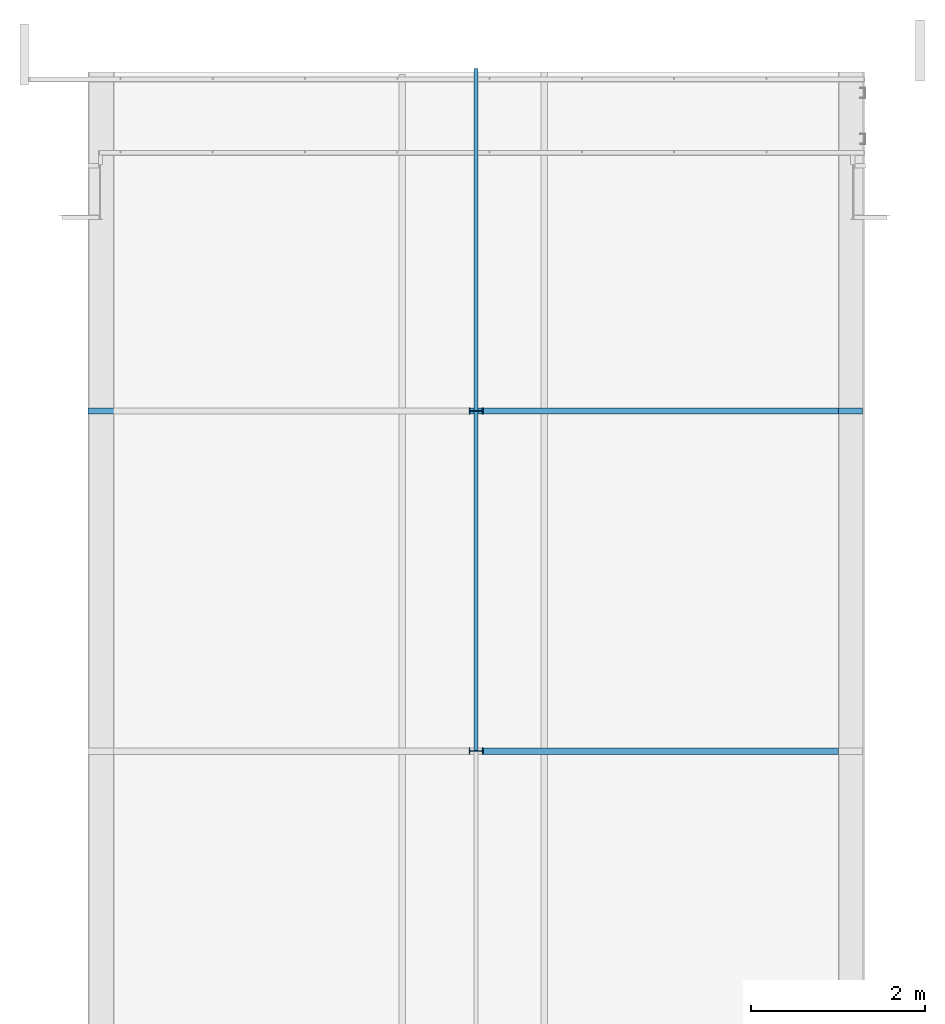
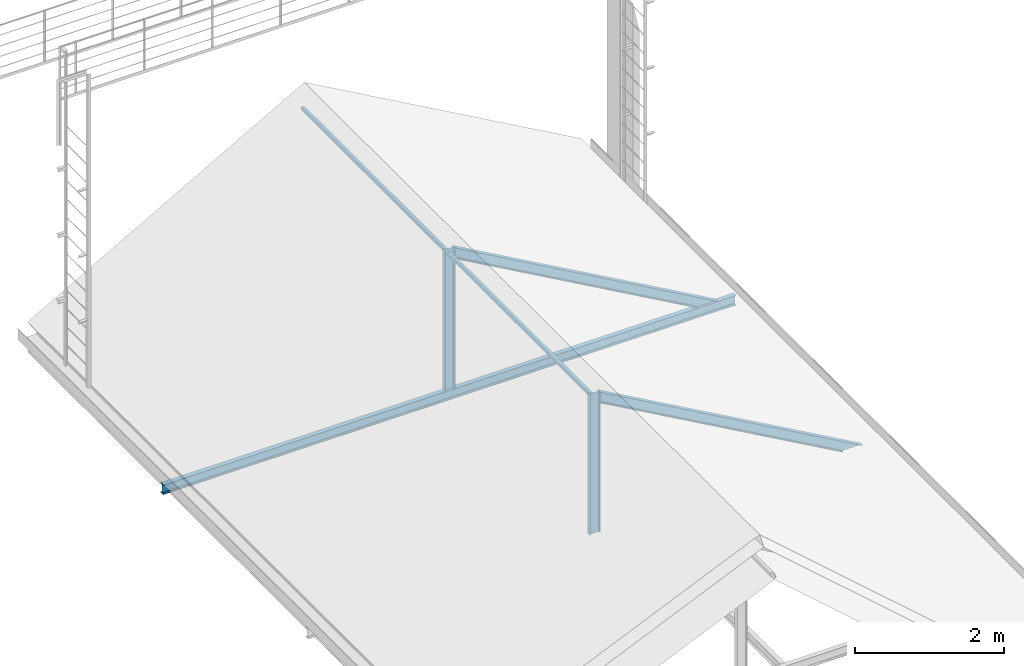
# One storey, part 5 of 10: 5 beams, 2 members, 2 elements without a shape of their own.
"""IFC2X3 building model written with IfcOpenShell, lengths in metres."""

from ifc_helpers import new_model, entity, si_unit, converted_unit, derived_unit, direction, frame, frame_2d, origin, place, context, subcontext, project, spatial, polyline, circle_curve, parameter, trimmed, segment, composite_curve, rectangle, outline, extrude, clip, halfspace, source, transform, mapped, material, type_object, type_shapes, element, aggregate, save


model = new_model("IFC2X3")

# Units and contexts
model_context = context("Model", 3, precision=1e-05, world=origin(), true_north=direction((6.12303176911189e-17, 1.0)))
body_context = subcontext(model_context, "Body", "Model", "MODEL_VIEW")
ifc_project = project(units=[si_unit("LENGTHUNIT", "METRE"), si_unit("AREAUNIT", "SQUARE_METRE"), si_unit("VOLUMEUNIT", "CUBIC_METRE"), converted_unit("PLANEANGLEUNIT", "DEGREE", entity("IfcRatioMeasure", 0.0174532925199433), si_unit("PLANEANGLEUNIT", "RADIAN"), dimensions=[0, 0, 0, 0, 0, 0, 0]), si_unit("MASSUNIT", "GRAM", prefix="KILO"), derived_unit("MASSDENSITYUNIT", [(si_unit("MASSUNIT", "GRAM", prefix="KILO"), 1), (si_unit("LENGTHUNIT", "METRE"), -3)]), derived_unit("MOMENTOFINERTIAUNIT", [(si_unit("LENGTHUNIT", "METRE"), 4)]), si_unit("TIMEUNIT", "SECOND"), si_unit("FREQUENCYUNIT", "HERTZ"), si_unit("THERMODYNAMICTEMPERATUREUNIT", "DEGREE_CELSIUS"), derived_unit("THERMALTRANSMITTANCEUNIT", [(si_unit("MASSUNIT", "GRAM", prefix="KILO"), 1), (si_unit("THERMODYNAMICTEMPERATUREUNIT", "KELVIN"), -1), (si_unit("TIMEUNIT", "SECOND"), -3)]), derived_unit("VOLUMETRICFLOWRATEUNIT", [(si_unit("LENGTHUNIT", "METRE"), 3), (si_unit("TIMEUNIT", "SECOND"), -1)]), si_unit("ELECTRICCURRENTUNIT", "AMPERE"), si_unit("ELECTRICVOLTAGEUNIT", "VOLT"), si_unit("POWERUNIT", "WATT"), si_unit("FORCEUNIT", "NEWTON", prefix="KILO"), si_unit("ILLUMINANCEUNIT", "LUX"), si_unit("LUMINOUSFLUXUNIT", "LUMEN"), si_unit("LUMINOUSINTENSITYUNIT", "CANDELA"), derived_unit("USERDEFINED", [(si_unit("MASSUNIT", "GRAM", prefix="KILO"), -1), (si_unit("LENGTHUNIT", "METRE"), -2), (si_unit("TIMEUNIT", "SECOND"), 3), (si_unit("LUMINOUSFLUXUNIT", "LUMEN"), 1)]), derived_unit("LINEARVELOCITYUNIT", [(si_unit("LENGTHUNIT", "METRE"), 1), (si_unit("TIMEUNIT", "SECOND"), -1)]), si_unit("PRESSUREUNIT", "PASCAL"), derived_unit("USERDEFINED", [(si_unit("LENGTHUNIT", "METRE"), -2), (si_unit("MASSUNIT", "GRAM", prefix="KILO"), 1), (si_unit("TIMEUNIT", "SECOND"), -2)]), derived_unit("LINEARFORCEUNIT", [(si_unit("MASSUNIT", "GRAM", prefix="KILO"), 1), (si_unit("LENGTHUNIT", "METRE"), 1), (si_unit("TIMEUNIT", "SECOND"), -2), (si_unit("LENGTHUNIT", "METRE"), -1)]), derived_unit("PLANARFORCEUNIT", [(si_unit("MASSUNIT", "GRAM", prefix="KILO"), 1), (si_unit("LENGTHUNIT", "METRE"), 1), (si_unit("TIMEUNIT", "SECOND"), -2), (si_unit("LENGTHUNIT", "METRE"), -2)])], contexts=[model_context])

# Site, building, storey
site_placement = place(None, origin())
site = spatial("IfcSite", under=ifc_project, at=site_placement, Name="Superficie", CompositionType="ELEMENT")
building_placement = place(site_placement, origin())
building = spatial("IfcBuilding", under=site, at=building_placement, Name="Telegestiones", CompositionType="ELEMENT")
storey_placement = place(building_placement, frame((0.0, 0.0, 13.23)))
storey = spatial("IfcBuildingStorey", under=building, at=storey_placement, Name="Nivel 3_SUP", CompositionType="ELEMENT", Elevation=13.23)

# Assembly, beam
assembly_1_placement = place(storey_placement, origin())
assembly_1 = element("IfcElementAssembly", 1, at=assembly_1_placement, inside=storey, Name="EST-CER-Hi:Estándar", ObjectType="EST-CER-Hi:Estándar", AssemblyPlace="NOTDEFINED", PredefinedType="TRUSS")
ifc_material_1 = material(Name="Metal - Acero - 345 MPa")
beam_type_1 = type_object("IfcBeamType", Name="IPN - Secciones en I con alas cónicas:IPN 160", PredefinedType="NOTDEFINED")
beam_1_placement = place(assembly_1_placement, frame((10.4934837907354, 5.94460722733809, 2.42000000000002), z_axis=(0.491850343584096, 0.0, 0.870679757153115), x_axis=(0.870679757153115, 0.0, -0.491850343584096)))
beam_1 = element("IfcBeam", 2, at=beam_1_placement, type_object=beam_type_1, material=ifc_material_1, Name="IPN - Secciones en I con alas cónicas:IPN 160", ObjectType="IPN - Secciones en I con alas cónicas:IPN 160", context=body_context, shape_type="SweptSolid", body=[
    clip(clip(extrude(outline(composite_curve([segment(polyline([(0.0763950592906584, -0.0370000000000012), (0.0800000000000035, -0.0370000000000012)]), True, "CONTINUOUS"), segment(polyline([(0.0800000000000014, -0.0370000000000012), (0.0800000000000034, 0.0369999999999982)]), True, "CONTINUOUS"), segment(polyline([(0.0800000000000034, 0.0369999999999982), (0.0763950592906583, 0.0369999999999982)]), True, "CONTINUOUS"), segment(trimmed(circle_curve(frame_2d((0.0763950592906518, 0.0332000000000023), x_axis=(0.0, 1.0)), 0.00379999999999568), [parameter(0.0)], [parameter(82.0303896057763)], True, "PARAMETER"), True, "CONTINUOUS"), segment(polyline([(0.0726317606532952, 0.033726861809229), (0.0691107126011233, 0.0085765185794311)]), True, "CONTINUOUS"), segment(trimmed(circle_curve(frame_2d((0.0628715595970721, 0.00944999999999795), x_axis=(0.990341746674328, -0.138647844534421)), 0.00629999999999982), [parameter(277.969610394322)], [parameter(0.0)], True, "PARAMETER"), False, "CONTINUOUS"), segment(polyline([(0.0628715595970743, 0.0031499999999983), (-0.0628715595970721, 0.0031499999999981)]), True, "CONTINUOUS"), segment(trimmed(circle_curve(frame_2d((-0.0628715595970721, 0.00944999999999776), x_axis=(0.0, -1.0)), 0.00629999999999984), [parameter(277.969610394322)], [parameter(0.0)], True, "PARAMETER"), False, "CONTINUOUS"), segment(polyline([(-0.069110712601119, 0.00857651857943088), (-0.072631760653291, 0.0337268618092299)]), True, "CONTINUOUS"), segment(trimmed(circle_curve(frame_2d((-0.0763950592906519, 0.0331999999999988), x_axis=(0.990341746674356, 0.138647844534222)), 0.00379999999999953), [parameter(0.0)], [parameter(82.0303896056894)], True, "PARAMETER"), True, "CONTINUOUS"), segment(polyline([(-0.0763950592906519, 0.036999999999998), (-0.0800000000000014, 0.036999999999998)]), True, "CONTINUOUS"), segment(polyline([(-0.0800000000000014, 0.036999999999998), (-0.0800000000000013, -0.0370000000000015)]), True, "CONTINUOUS"), segment(polyline([(-0.0800000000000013, -0.0370000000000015), (-0.0763950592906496, -0.0370000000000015)]), True, "CONTINUOUS"), segment(trimmed(circle_curve(frame_2d((-0.0763950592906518, -0.0332000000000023), x_axis=(0.0, -1.0)), 0.00379999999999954), [parameter(0.0)], [parameter(82.0303896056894)], True, "PARAMETER"), True, "CONTINUOUS"), segment(polyline([(-0.0726317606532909, -0.0337268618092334), (-0.0691107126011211, -0.00857651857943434)]), True, "CONTINUOUS"), segment(trimmed(circle_curve(frame_2d((-0.0628715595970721, -0.0094500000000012), x_axis=(-0.990341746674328, 0.138647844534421)), 0.00629999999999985), [parameter(277.969610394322)], [parameter(0.0)], True, "PARAMETER"), False, "CONTINUOUS"), segment(polyline([(-0.0628715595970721, -0.00315000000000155), (0.0628715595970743, -0.00315000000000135)]), True, "CONTINUOUS"), segment(trimmed(circle_curve(frame_2d((0.0628715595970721, -0.009450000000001), x_axis=(0.0, 1.0)), 0.0062999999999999), [parameter(277.969610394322)], [parameter(0.0)], True, "PARAMETER"), False, "CONTINUOUS"), segment(polyline([(0.0691107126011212, -0.00857651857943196), (0.0726317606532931, -0.0337268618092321)]), True, "CONTINUOUS"), segment(trimmed(circle_curve(frame_2d((0.0763950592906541, -0.0332000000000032), x_axis=(-0.99034174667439, -0.138647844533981)), 0.00379999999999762), [parameter(0.0)], [parameter(82.0303896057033)], True, "PARAMETER"), True, "CONTINUOUS")], self_intersect=False)), frame((0.0466899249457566, 0.0, 0.0), z_axis=(1.0, 0.0, 0.0), x_axis=(0.0, 0.0, -1.0)), (0.0, 0.0, 1.0), 4.68982070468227), halfspace(frame((-2.77164994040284, -0.0370000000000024, -4.16138878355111), z_axis=(0.491850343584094, 0.0, -0.870679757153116), x_axis=(0.870679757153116, 0.0, 0.491850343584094)), False)), halfspace(frame((1.1812361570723, 0.0370000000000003, -1.92838822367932), z_axis=(-0.870679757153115, 0.0, -0.491850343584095), x_axis=(-0.491850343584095, 0.0, 0.870679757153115)), False)),
])

# Assembly, beams
assembly_2_placement = place(storey_placement, origin())
assembly_2 = element("IfcElementAssembly", 3, at=assembly_2_placement, inside=storey, Name="EST-CER-Hi:Estándar", ObjectType="EST-CER-Hi:Estándar", AssemblyPlace="NOTDEFINED", PredefinedType="TRUSS")
beam_2_placement = place(assembly_2_placement, frame((6.03348379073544, 9.85160722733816, 0.070000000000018)))
beam_2 = element("IfcBeam", 4, at=beam_2_placement, type_object=beam_type_1, material=ifc_material_1, Name="IPN - Secciones en I con alas cónicas:IPN 160", ObjectType="IPN - Secciones en I con alas cónicas:IPN 160", context=body_context, shape_type="SweptSolid", body=[
    extrude(outline(composite_curve([segment(polyline([(0.0763950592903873, -0.0370000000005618), (0.0799999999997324, -0.0370000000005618)]), True, "CONTINUOUS"), segment(polyline([(0.0799999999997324, -0.0370000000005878), (0.0800000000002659, 0.0369999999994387)]), True, "CONTINUOUS"), segment(polyline([(0.0800000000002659, 0.0369999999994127), (0.0763950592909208, 0.0369999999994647)]), True, "CONTINUOUS"), segment(trimmed(circle_curve(frame_2d((0.0763950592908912, 0.0331999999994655), x_axis=(0.0, 1.0)), 0.00379999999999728), [parameter(0.0)], [parameter(82.0303896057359)], True, "PARAMETER"), True, "CONTINUOUS"), segment(polyline([(0.0726317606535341, 0.0337268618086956), (0.0691107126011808, 0.00857651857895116)]), True, "CONTINUOUS"), segment(trimmed(circle_curve(frame_2d((0.0628715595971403, 0.00944999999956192), x_axis=(0.990341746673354, -0.138647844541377)), 0.00630000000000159), [parameter(277.969610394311)], [parameter(0.0)], True, "PARAMETER"), False, "CONTINUOUS"), segment(polyline([(0.0628715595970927, 0.0031499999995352), (-0.0628715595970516, 0.0031500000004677)]), True, "CONTINUOUS"), segment(trimmed(circle_curve(frame_2d((-0.0628715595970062, 0.00945000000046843), x_axis=(0.0, -1.0)), 0.00630000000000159), [parameter(277.969610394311)], [parameter(0.0)], True, "PARAMETER"), False, "CONTINUOUS"), segment(polyline([(-0.0691107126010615, 0.00857651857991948), (-0.07263176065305, 0.0337268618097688)]), True, "CONTINUOUS"), segment(trimmed(circle_curve(frame_2d((-0.0763950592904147, 0.033200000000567), x_axis=(0.990341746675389, 0.138647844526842)), 0.00379999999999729), [parameter(0.0)], [parameter(82.0303896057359)], True, "PARAMETER"), True, "CONTINUOUS"), segment(polyline([(-0.0763950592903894, 0.0370000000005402), (-0.0799999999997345, 0.0370000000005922)]), True, "CONTINUOUS"), segment(polyline([(-0.0799999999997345, 0.037000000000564), (-0.080000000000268, -0.0369999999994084)]), True, "CONTINUOUS"), segment(polyline([(-0.080000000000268, -0.0369999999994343), (-0.0763950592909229, -0.0369999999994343)]), True, "CONTINUOUS"), segment(trimmed(circle_curve(frame_2d((-0.0763950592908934, -0.0331999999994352), x_axis=(0.0, -1.0)), 0.00379999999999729), [parameter(0.0)], [parameter(82.0303896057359)], True, "PARAMETER"), True, "CONTINUOUS"), segment(polyline([(-0.0726317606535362, -0.0337268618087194), (-0.069110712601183, -0.00857651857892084)]), True, "CONTINUOUS"), segment(trimmed(circle_curve(frame_2d((-0.0628715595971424, -0.0094499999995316), x_axis=(-0.990341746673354, 0.138647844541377)), 0.00630000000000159), [parameter(277.969610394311)], [parameter(0.0)], True, "PARAMETER"), False, "CONTINUOUS"), segment(polyline([(-0.062871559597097, -0.00314999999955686), (0.0628715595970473, -0.00315000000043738)]), True, "CONTINUOUS"), segment(trimmed(circle_curve(frame_2d((0.0628715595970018, -0.00945000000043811), x_axis=(0.0, 1.0)), 0.00630000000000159), [parameter(277.969610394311)], [parameter(0.0)], True, "PARAMETER"), False, "CONTINUOUS"), segment(polyline([(0.0691107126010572, -0.0085765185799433), (0.0726317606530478, -0.0337268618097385)]), True, "CONTINUOUS"), segment(trimmed(circle_curve(frame_2d((0.0763950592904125, -0.0332000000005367), x_axis=(-0.990341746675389, -0.138647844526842)), 0.00379999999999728), [parameter(0.0)], [parameter(82.0303896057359)], True, "PARAMETER"), True, "CONTINUOUS")], self_intersect=False)), frame((0.0, 0.0, 0.00999999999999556), z_axis=(1.0, 0.0, 0.0), x_axis=(0.0, 0.0, -1.0)), (0.0, 0.0, 1.0), 8.89907373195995),
])
beam_3_placement = place(assembly_2_placement, frame((10.4934837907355, 9.85160722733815, 2.42000000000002), z_axis=(0.491850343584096, 0.0, 0.870679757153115), x_axis=(0.870679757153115, 0.0, -0.491850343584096)))
beam_3 = element("IfcBeam", 5, at=beam_3_placement, type_object=beam_type_1, material=ifc_material_1, Name="IPN - Secciones en I con alas cónicas:IPN 160", ObjectType="IPN - Secciones en I con alas cónicas:IPN 160", context=body_context, shape_type="SweptSolid", body=[
    clip(clip(extrude(outline(composite_curve([segment(polyline([(-0.0799999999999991, -0.0370000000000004), (-0.0763950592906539, -0.0370000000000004)]), True, "CONTINUOUS"), segment(trimmed(circle_curve(frame_2d((-0.0763950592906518, -0.0332000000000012), x_axis=(0.0, -1.0)), 0.00379999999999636), [parameter(0.0)], [parameter(82.0303896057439)], True, "PARAMETER"), True, "CONTINUOUS"), segment(polyline([(-0.0726317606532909, -0.0337268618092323), (-0.0691107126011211, -0.00857651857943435)]), True, "CONTINUOUS"), segment(trimmed(circle_curve(frame_2d((-0.0628715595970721, -0.00945000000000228), x_axis=(-0.99034174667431, 0.138647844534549)), 0.00630000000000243), [parameter(277.969610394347)], [parameter(0.0)], True, "PARAMETER"), False, "CONTINUOUS"), segment(polyline([(-0.0628715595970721, -0.00314999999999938), (0.0628715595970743, -0.00314999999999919)]), True, "CONTINUOUS"), segment(trimmed(circle_curve(frame_2d((0.0628715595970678, -0.00945000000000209), x_axis=(0.0, 1.0)), 0.00630000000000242), [parameter(277.969610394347)], [parameter(0.0)], True, "PARAMETER"), False, "CONTINUOUS"), segment(polyline([(0.0691107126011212, -0.00857651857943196), (0.072631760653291, -0.0337268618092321)]), True, "CONTINUOUS"), segment(trimmed(circle_curve(frame_2d((0.0763950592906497, -0.0332000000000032), x_axis=(-0.990341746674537, -0.138647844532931)), 0.00379999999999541), [parameter(0.0)], [parameter(82.0303896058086)], True, "PARAMETER"), True, "CONTINUOUS"), segment(polyline([(0.0763950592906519, -0.0370000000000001), (0.0800000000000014, -0.0370000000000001)]), True, "CONTINUOUS"), segment(polyline([(0.0800000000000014, -0.036999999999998), (0.0800000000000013, 0.0370000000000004)]), True, "CONTINUOUS"), segment(polyline([(0.0800000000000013, 0.0370000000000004), (0.0763950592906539, 0.0370000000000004)]), True, "CONTINUOUS"), segment(trimmed(circle_curve(frame_2d((0.0763950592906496, 0.0332000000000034), x_axis=(0.0, 1.0)), 0.00379999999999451), [parameter(0.0)], [parameter(82.0303896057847)], True, "PARAMETER"), True, "CONTINUOUS"), segment(polyline([(0.0726317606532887, 0.0337268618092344), (0.0691107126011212, 0.00857651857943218)]), True, "CONTINUOUS"), segment(trimmed(circle_curve(frame_2d((0.0628715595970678, 0.00945000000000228), x_axis=(0.99034174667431, -0.138647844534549)), 0.00630000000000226), [parameter(277.969610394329)], [parameter(0.0)], True, "PARAMETER"), False, "CONTINUOUS"), segment(polyline([(0.06287155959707, 0.00314999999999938), (-0.0628715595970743, 0.00314999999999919)]), True, "CONTINUOUS"), segment(trimmed(circle_curve(frame_2d((-0.0628715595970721, 0.00945000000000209), x_axis=(0.0, -1.0)), 0.00630000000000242), [parameter(277.969610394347)], [parameter(0.0)], True, "PARAMETER"), False, "CONTINUOUS"), segment(polyline([(-0.0691107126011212, 0.00857651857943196), (-0.0726317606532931, 0.0337268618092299)]), True, "CONTINUOUS"), segment(trimmed(circle_curve(frame_2d((-0.0763950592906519, 0.033200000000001), x_axis=(0.99034174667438, 0.138647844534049)), 0.00379999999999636), [parameter(0.0)], [parameter(82.0303896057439)], True, "PARAMETER"), True, "CONTINUOUS"), segment(polyline([(-0.0763950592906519, 0.0370000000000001), (-0.0800000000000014, 0.0370000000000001)]), True, "CONTINUOUS"), segment(polyline([(-0.0799999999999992, 0.036999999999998), (-0.0800000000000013, -0.0370000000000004)]), True, "CONTINUOUS")], self_intersect=False)), frame((0.0466899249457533, 0.0, 0.0), z_axis=(1.0, 0.0, 0.0), x_axis=(0.0, 0.0, -1.0)), (0.0, 0.0, 1.0), 4.68982070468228), halfspace(frame((-2.77164994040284, -0.0370000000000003, -4.16138878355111), z_axis=(0.491850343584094, 0.0, -0.870679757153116), x_axis=(0.870679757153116, 0.0, 0.491850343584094)), False)), halfspace(frame((1.1812361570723, 0.0370000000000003, -1.92838822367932), z_axis=(-0.870679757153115, 0.0, -0.491850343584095), x_axis=(-0.491850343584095, 0.0, 0.870679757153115)), False)),
])

# Member
member_type_1 = type_object("IfcMemberType", Name="IPN - Secciones en I con alas cónicas:IPN 160", PredefinedType="BRACE", material=ifc_material_1)
shared_shape_1 = source(origin(), body_context, "Body", "SweptSolid", [
    extrude(outline(composite_curve([segment(polyline([(-0.0369999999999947, -0.0800000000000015), (0.0370000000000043, -0.0800000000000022)]), True, "CONTINUOUS"), segment(polyline([(0.0370000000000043, -0.079999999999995), (0.037000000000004, -0.0763950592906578)]), True, "CONTINUOUS"), segment(trimmed(circle_curve(frame_2d((0.0332000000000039, -0.0763950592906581), x_axis=(1.0, 0.0)), 0.00380000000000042), [parameter(0.0)], [parameter(82.0303896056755)], True, "PARAMETER"), True, "CONTINUOUS"), segment(polyline([(0.0337268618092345, -0.072631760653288), (0.00857651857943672, -0.0691107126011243)]), True, "CONTINUOUS"), segment(trimmed(circle_curve(frame_2d((0.00945000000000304, -0.0628715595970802), x_axis=(-0.138647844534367, -0.990341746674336)), 0.00629999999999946), [parameter(277.969610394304)], [parameter(0.0)], True, "PARAMETER"), False, "CONTINUOUS"), segment(polyline([(0.00315000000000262, -0.0628715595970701), (0.00314999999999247, 0.0628715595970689)]), True, "CONTINUOUS"), segment(trimmed(circle_curve(frame_2d((0.009449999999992, 0.0628715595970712), x_axis=(-1.0, 0.0)), 0.0062999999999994), [parameter(277.969610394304)], [parameter(0.0)], True, "PARAMETER"), False, "CONTINUOUS"), segment(polyline([(0.00857651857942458, 0.069110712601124), (0.0337268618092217, 0.0726317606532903)]), True, "CONTINUOUS"), segment(trimmed(circle_curve(frame_2d((0.0331999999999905, 0.0763950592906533), x_axis=(0.13864784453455, -0.990341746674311)), 0.00380000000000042), [parameter(0.0)], [parameter(82.0303896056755)], True, "PARAMETER"), True, "CONTINUOUS"), segment(polyline([(0.0369999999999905, 0.076395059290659), (0.0369999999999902, 0.079999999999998)]), True, "CONTINUOUS"), segment(polyline([(0.0369999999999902, 0.0800000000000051), (-0.0370000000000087, 0.0799999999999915)]), True, "CONTINUOUS"), segment(polyline([(-0.0370000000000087, 0.0799999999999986), (-0.0370000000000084, 0.0763950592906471)]), True, "CONTINUOUS"), segment(trimmed(circle_curve(frame_2d((-0.0332000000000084, 0.0763950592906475), x_axis=(-1.0, 0.0)), 0.00380000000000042), [parameter(0.0)], [parameter(82.0303896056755)], True, "PARAMETER"), True, "CONTINUOUS"), segment(polyline([(-0.0337268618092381, 0.0726317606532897), (-0.00857651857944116, 0.0691107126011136)]), True, "CONTINUOUS"), segment(trimmed(circle_curve(frame_2d((-0.00945000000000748, 0.0628715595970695), x_axis=(0.138647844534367, 0.990341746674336)), 0.00629999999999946), [parameter(277.969610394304)], [parameter(0.0)], True, "PARAMETER"), False, "CONTINUOUS"), segment(polyline([(-0.00315000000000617, 0.0628715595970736), (-0.00314999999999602, -0.062871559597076)]), True, "CONTINUOUS"), segment(trimmed(circle_curve(frame_2d((-0.00944999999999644, -0.0628715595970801), x_axis=(1.0, 0.0)), 0.0062999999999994), [parameter(277.969610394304)], [parameter(0.0)], True, "PARAMETER"), False, "CONTINUOUS"), segment(polyline([(-0.00857651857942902, -0.0691107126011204), (-0.0337268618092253, -0.072631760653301)]), True, "CONTINUOUS"), segment(trimmed(circle_curve(frame_2d((-0.033199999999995, -0.076395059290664), x_axis=(-0.13864784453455, 0.990341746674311)), 0.00380000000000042), [parameter(0.0)], [parameter(82.0303896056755)], True, "PARAMETER"), True, "CONTINUOUS"), segment(polyline([(-0.036999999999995, -0.0763950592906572), (-0.0369999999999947, -0.0800000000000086)]), True, "CONTINUOUS")], self_intersect=False)), frame((10.4934837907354, 5.94460722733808, 13.39), z_axis=(0.0, 0.0, 1.0), x_axis=(0.0, -1.0, 0.0)), (0.0, 0.0, 1.0), 2.308),
])
type_shapes(member_type_1, [shared_shape_1])
member_1_placement = place(assembly_1_placement, frame((0.0, 0.0, -13.23)))
member_1 = element("IfcMember", 6, at=member_1_placement, type_object=member_type_1, Name="IPN - Secciones en I con alas cónicas:IPN 160", ObjectType="IPN - Secciones en I con alas cónicas:IPN 160", context=body_context, shape_type="MappedRepresentation", body=[
    mapped(shared_shape_1, transform((0.0, 0.0, 0.0), scale=1.0)),
])

aggregate(assembly_1, [beam_1, member_1])

member_type_2 = type_object("IfcMemberType", Name="IPN - Secciones en I con alas cónicas:IPN 160", PredefinedType="BRACE", material=ifc_material_1)
shared_shape_2 = source(origin(), body_context, "Body", "SweptSolid", [
    extrude(outline(composite_curve([segment(polyline([(-0.036999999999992, -0.0800000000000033), (0.0370000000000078, -0.0800000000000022)]), True, "CONTINUOUS"), segment(polyline([(0.0370000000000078, -0.0799999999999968), (0.0370000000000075, -0.0763950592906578)]), True, "CONTINUOUS"), segment(trimmed(circle_curve(frame_2d((0.0332000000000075, -0.0763950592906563), x_axis=(1.0, 0.0)), 0.00379999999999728), [parameter(0.0)], [parameter(82.0303896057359)], True, "PARAMETER"), True, "CONTINUOUS"), segment(polyline([(0.0337268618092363, -0.072631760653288), (0.00857651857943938, -0.0691107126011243)]), True, "CONTINUOUS"), segment(trimmed(circle_curve(frame_2d((0.00945000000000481, -0.0628715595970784), x_axis=(-0.13864784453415, -0.990341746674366)), 0.00630000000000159), [parameter(277.969610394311)], [parameter(0.0)], True, "PARAMETER"), False, "CONTINUOUS"), segment(polyline([(0.00315000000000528, -0.0628715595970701), (0.00314999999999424, 0.0628715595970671)]), True, "CONTINUOUS"), segment(trimmed(circle_curve(frame_2d((0.00944999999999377, 0.0628715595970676), x_axis=(-1.0, 0.0)), 0.00630000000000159), [parameter(277.969610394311)], [parameter(0.0)], True, "PARAMETER"), False, "CONTINUOUS"), segment(polyline([(0.00857651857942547, 0.069110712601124), (0.0337268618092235, 0.0726317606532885)]), True, "CONTINUOUS"), segment(trimmed(circle_curve(frame_2d((0.0331999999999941, 0.0763950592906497), x_axis=(0.138647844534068, -0.990341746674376)), 0.00379999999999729), [parameter(0.0)], [parameter(82.0303896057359)], True, "PARAMETER"), True, "CONTINUOUS"), segment(polyline([(0.0369999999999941, 0.076395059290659), (0.0369999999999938, 0.079999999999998)]), True, "CONTINUOUS"), segment(polyline([(0.0369999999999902, 0.0800000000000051), (-0.0370000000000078, 0.0799999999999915)]), True, "CONTINUOUS"), segment(polyline([(-0.0370000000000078, 0.0799999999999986), (-0.0370000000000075, 0.0763950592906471)]), True, "CONTINUOUS"), segment(trimmed(circle_curve(frame_2d((-0.0332000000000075, 0.0763950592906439), x_axis=(-1.0, 0.0)), 0.00379999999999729), [parameter(0.0)], [parameter(82.0303896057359)], True, "PARAMETER"), True, "CONTINUOUS"), segment(polyline([(-0.0337268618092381, 0.0726317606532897), (-0.00857651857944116, 0.0691107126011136)]), True, "CONTINUOUS"), segment(trimmed(circle_curve(frame_2d((-0.00945000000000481, 0.062871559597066), x_axis=(0.13864784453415, 0.990341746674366)), 0.00630000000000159), [parameter(277.969610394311)], [parameter(0.0)], True, "PARAMETER"), False, "CONTINUOUS"), segment(polyline([(-0.00315000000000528, 0.0628715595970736), (-0.00314999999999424, -0.0628715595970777)]), True, "CONTINUOUS"), segment(trimmed(circle_curve(frame_2d((-0.00944999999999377, -0.0628715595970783), x_axis=(1.0, 0.0)), 0.00630000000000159), [parameter(277.969610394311)], [parameter(0.0)], True, "PARAMETER"), False, "CONTINUOUS"), segment(polyline([(-0.00857651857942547, -0.0691107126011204), (-0.0337268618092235, -0.072631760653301)]), True, "CONTINUOUS"), segment(trimmed(circle_curve(frame_2d((-0.0331999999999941, -0.0763950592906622), x_axis=(-0.138647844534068, 0.990341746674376)), 0.00379999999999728), [parameter(0.0)], [parameter(82.0303896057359)], True, "PARAMETER"), True, "CONTINUOUS"), segment(polyline([(-0.0369999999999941, -0.0763950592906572), (-0.0369999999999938, -0.0800000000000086)]), True, "CONTINUOUS")], self_intersect=False)), frame((10.4934837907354, 9.85160722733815, 13.39), z_axis=(0.0, 0.0, 1.0), x_axis=(0.0, -1.0, 0.0)), (0.0, 0.0, 1.0), 2.308),
])
type_shapes(member_type_2, [shared_shape_2])
member_2_placement = place(assembly_2_placement, frame((0.0, 0.0, -13.23)))
member_2 = element("IfcMember", 7, at=member_2_placement, type_object=member_type_2, Name="IPN - Secciones en I con alas cónicas:IPN 160", ObjectType="IPN - Secciones en I con alas cónicas:IPN 160", context=body_context, shape_type="MappedRepresentation", body=[
    mapped(shared_shape_2, transform((0.0, 0.0, 0.0), scale=1.0)),
])

aggregate(assembly_2, [beam_2, beam_3, member_2])

# Beams
ifc_material_2 = material(Name="Madera - Madera de construcción")
beam_type_2 = type_object("IfcBeamType", Name="Madera:50x50mm", PredefinedType="NOTDEFINED")
beam_4_placement = place(storey_placement, frame((10.4934837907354, 5.94460722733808, 2.41), z_axis=(0.0, 0.0, 1.0), x_axis=(0.0, 1.0, 0.0)))
element("IfcBeam", 8, at=beam_4_placement, inside=storey, type_object=beam_type_2, material=ifc_material_2, Name="Madera:50x50mm", ObjectType="Madera:50x50mm", context=body_context, shape_type="SweptSolid", body=[
    extrude(rectangle(XDim=0.0499999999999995, YDim=0.0500000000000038, at=frame_2d((-1.08246744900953e-15, 1.08246744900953e-15), x_axis=(1.0, 0.0))), frame((0.0, 0.0, -0.025000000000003), z_axis=(1.0, 0.0, 0.0), x_axis=(0.0, 0.0, -1.0)), (0.0, 0.0, 1.0), 3.907),
])
beam_5_placement = place(storey_placement, frame((10.4934837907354, 9.85475722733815, 2.41), z_axis=(0.0, 0.0, 1.0), x_axis=(0.0, 1.0, 0.0)))
element("IfcBeam", 9, at=beam_5_placement, inside=storey, type_object=beam_type_2, material=ifc_material_2, Name="Madera:50x50mm", ObjectType="Madera:50x50mm", context=body_context, shape_type="SweptSolid", body=[
    extrude(rectangle(XDim=0.0499999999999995, YDim=0.0500000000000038, at=frame_2d((-1.08246744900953e-15, 1.08246744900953e-15), x_axis=(1.0, 0.0))), frame((-0.0025750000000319, 0.0, -0.025000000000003), z_axis=(1.0, 0.0, 0.0), x_axis=(0.0, 0.0, -1.0)), (0.0, 0.0, 1.0), 3.93309580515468),
])

save(model, "model.ifc")
